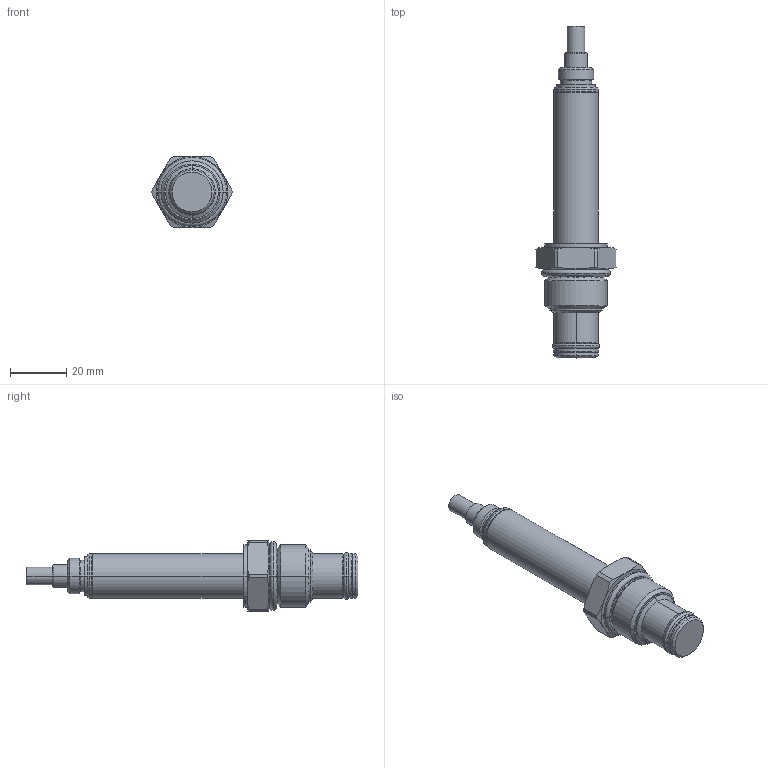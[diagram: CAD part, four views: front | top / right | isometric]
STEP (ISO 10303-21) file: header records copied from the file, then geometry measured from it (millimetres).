
FILE_DESCRIPTION((''),'2;1');
FILE_NAME('5029005_SW0001','2009-03-02T',('JCS'),(''),'PRO/ENGINEER BY PARAMETRIC TECHNOLOGY CORPORATION, 2008010','PRO/ENGINEER BY PARAMETRIC TECHNOLOGY CORPORATION, 2008010','');
FILE_SCHEMA(('CONFIG_CONTROL_DESIGN'));
Length unit declared in the file: inch
Products named in the file (1): 5029005_SW0001
Bounding box: 28.57 x 118.54 x 25.4 mm (x, y, z)
Volume: 26220.8 mm3; surface area: 8185.9 mm2
Topology: 3 solids, 3 shells, 138 faces, 294 edges, 170 vertices
Faces by surface type: cone 42, cylinder 40, torus 20, plane 20, revolution 16
Entity records: 4084 total; most frequent: CARTESIAN_POINT 1016, DIRECTION 686, ORIENTED_EDGE 588, AXIS2_PLACEMENT_3D 294, EDGE_CURVE 294, CIRCLE 172, VERTEX_POINT 170, EDGE_LOOP 150
